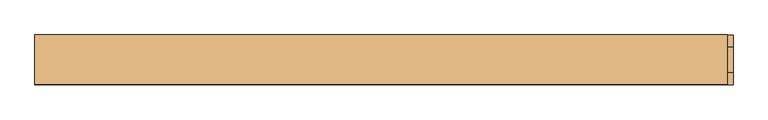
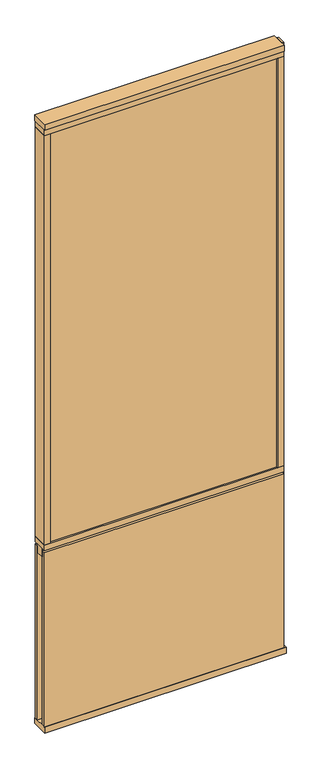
"""IFC4 building model written with IfcOpenShell, lengths in millimetres: door geometry, Mobiliário_Mobiliário de Escritório_Painel Misto Vidro Duplo com Persiana - AET e AEL (Complementar)_Marelli : AET - Temperado."""

from ifc_helpers import new_model, si_unit, frame, origin, origin_with_axes, place, context, project, spatial, polyline, outline, extrude, source, transform, mapped, element, save


def door_dd75b759(model_context):
    return source(origin(), model_context, "Body", "SweptSolid", [
        extrude(outline(polyline([(600.0, 42.5), (600.0, -42.5), (-600.0, -42.5), (-600.0, 42.5), (600.0, 42.5)])), origin_with_axes(), (0.0, 0.0, 1.0), 30.0),
        extrude(outline(polyline([(590.0, 39.5), (590.0, 21.5), (-600.0, 21.5), (-600.0, 39.5), (590.0, 39.5)])), frame((0.0, 0.0, 30.0), z_axis=(0.0, 0.0, 1.0), x_axis=(1.0, 0.0, 0.0)), (0.0, 0.0, 1.0), 916.5),
        extrude(outline(polyline([(590.0, 21.5), (590.0, -21.5), (-600.0, -21.5), (-600.0, 21.5), (590.0, 21.5)])), frame((0.0, 0.0, 913.5), z_axis=(0.0, 0.0, 1.0), x_axis=(1.0, 0.0, 0.0)), (0.0, 0.0, 1.0), 43.0),
        extrude(outline(polyline([(590.0, -39.5), (-600.0, -39.5), (-600.0, -21.5), (590.0, -21.5), (590.0, -39.5)])), frame((0.0, 0.0, 30.0), z_axis=(0.0, 0.0, 1.0), x_axis=(1.0, 0.0, 0.0)), (0.0, 0.0, 1.0), 916.5),
        extrude(outline(polyline([(590.0, 39.5), (590.0, -39.5), (-600.0, -39.5), (-600.0, 39.5), (590.0, 39.5)])), frame((0.0, 0.0, 956.5), z_axis=(0.0, 0.0, 1.0), x_axis=(1.0, 0.0, 0.0)), (0.0, 0.0, 1.0), 30.0),
        extrude(outline(polyline([(590.0, 42.5), (590.0, -42.5), (-600.0, -42.5), (-600.0, 42.5), (590.0, 42.5)])), frame((0.0, 0.0, 3170.0), z_axis=(0.0, 0.0, 1.0), x_axis=(1.0, 0.0, 0.0)), (0.0, 0.0, 1.0), 30.0),
        extrude(outline(polyline([(590.0, 39.5), (590.0, -39.5), (-600.0, -39.5), (-600.0, 39.5), (590.0, 39.5)])), frame((0.0, 0.0, 3140.0), z_axis=(0.0, 0.0, 1.0), x_axis=(1.0, 0.0, 0.0)), (0.0, 0.0, 1.0), 30.0),
        extrude(outline(polyline([(560.0, 13.6216022), (560.0, -11.3783978), (-570.0, -11.3783978), (-570.0, 13.6216022), (560.0, 13.6216022)])), frame((0.0, 0.0, 3107.0), z_axis=(0.0, 0.0, 1.0), x_axis=(1.0, 0.0, 0.0)), (0.0, 0.0, 1.0), 25.0),
        extrude(outline(polyline([(590.0, -21.5), (590.0, 21.5), (600.0, 21.5), (600.0, -21.5), (590.0, -21.5)])), frame((0.0, 0.0, 30.0), z_axis=(0.0, 0.0, 1.0), x_axis=(1.0, 0.0, 0.0)), (0.0, 0.0, 1.0), 3170.0),
        extrude(outline(polyline([(-570.0, 39.5), (-570.0, -39.5), (-600.0, -39.5), (-600.0, 39.5), (-570.0, 39.5)])), frame((0.0, 0.0, 986.5), z_axis=(0.0, 0.0, 1.0), x_axis=(1.0, 0.0, 0.0)), (0.0, 0.0, 1.0), 2153.5),
        extrude(outline(polyline([(560.0, 39.5), (590.0, 39.5), (590.0, -39.5), (560.0, -39.5), (560.0, 39.5)])), frame((0.0, 0.0, 986.5), z_axis=(0.0, 0.0, 1.0), x_axis=(1.0, 0.0, 0.0)), (0.0, 0.0, 1.0), 2153.5),
        extrude(outline(polyline([(560.0, 31.0), (560.0, 25.0), (-570.0, 25.0), (-570.0, 31.0), (560.0, 31.0)])), frame((0.0, 0.0, 986.5), z_axis=(0.0, 0.0, 1.0), x_axis=(1.0, 0.0, 0.0)), (0.0, 0.0, 1.0), 2153.5),
        extrude(outline(polyline([(560.0, -25.0), (560.0, -31.0), (-570.0, -31.0), (-570.0, -25.0), (560.0, -25.0)])), frame((0.0, 0.0, 986.5), z_axis=(0.0, 0.0, 1.0), x_axis=(1.0, 0.0, 0.0)), (0.0, 0.0, 1.0), 2153.5),
        extrude(outline(polyline([(560.0, 8.0), (560.0, -8.0), (-570.0, -8.0), (-570.0, 8.0), (560.0, 8.0)])), frame((0.0, 0.0, 3091.2), z_axis=(0.0, 0.0, 1.0), x_axis=(1.0, 0.0, 0.0)), (0.0, 0.0, 1.0), 0.8),
        extrude(outline(polyline([(560.0, 8.0), (560.0, -8.0), (-570.0, -8.0), (-570.0, 8.0), (560.0, 8.0)])), frame((0.0, 0.0, 3061.2), z_axis=(0.0, 0.0, 1.0), x_axis=(1.0, 0.0, 0.0)), (0.0, 0.0, 1.0), 0.8),
        extrude(outline(polyline([(560.0, 8.0), (560.0, -8.0), (-570.0, -8.0), (-570.0, 8.0), (560.0, 8.0)])), frame((0.0, 0.0, 3031.2), z_axis=(0.0, 0.0, 1.0), x_axis=(1.0, 0.0, 0.0)), (0.0, 0.0, 1.0), 0.8),
        extrude(outline(polyline([(560.0, 8.0), (560.0, -8.0), (-570.0, -8.0), (-570.0, 8.0), (560.0, 8.0)])), frame((0.0, 0.0, 3001.2), z_axis=(0.0, 0.0, 1.0), x_axis=(1.0, 0.0, 0.0)), (0.0, 0.0, 1.0), 0.8),
        extrude(outline(polyline([(560.0, 8.0), (560.0, -8.0), (-570.0, -8.0), (-570.0, 8.0), (560.0, 8.0)])), frame((0.0, 0.0, 2971.2), z_axis=(0.0, 0.0, 1.0), x_axis=(1.0, 0.0, 0.0)), (0.0, 0.0, 1.0), 0.8),
        extrude(outline(polyline([(560.0, 8.0), (560.0, -8.0), (-570.0, -8.0), (-570.0, 8.0), (560.0, 8.0)])), frame((0.0, 0.0, 2941.2), z_axis=(0.0, 0.0, 1.0), x_axis=(1.0, 0.0, 0.0)), (0.0, 0.0, 1.0), 0.8),
        extrude(outline(polyline([(560.0, 8.0), (560.0, -8.0), (-570.0, -8.0), (-570.0, 8.0), (560.0, 8.0)])), frame((0.0, 0.0, 2911.2), z_axis=(0.0, 0.0, 1.0), x_axis=(1.0, 0.0, 0.0)), (0.0, 0.0, 1.0), 0.8),
        extrude(outline(polyline([(560.0, 8.0), (560.0, -8.0), (-570.0, -8.0), (-570.0, 8.0), (560.0, 8.0)])), frame((0.0, 0.0, 2881.2), z_axis=(0.0, 0.0, 1.0), x_axis=(1.0, 0.0, 0.0)), (0.0, 0.0, 1.0), 0.8),
        extrude(outline(polyline([(560.0, 8.0), (560.0, -8.0), (-570.0, -8.0), (-570.0, 8.0), (560.0, 8.0)])), frame((0.0, 0.0, 2851.2), z_axis=(0.0, 0.0, 1.0), x_axis=(1.0, 0.0, 0.0)), (0.0, 0.0, 1.0), 0.8),
        extrude(outline(polyline([(560.0, 8.0), (560.0, -8.0), (-570.0, -8.0), (-570.0, 8.0), (560.0, 8.0)])), frame((0.0, 0.0, 2821.2), z_axis=(0.0, 0.0, 1.0), x_axis=(1.0, 0.0, 0.0)), (0.0, 0.0, 1.0), 0.8),
        extrude(outline(polyline([(560.0, 8.0), (560.0, -8.0), (-570.0, -8.0), (-570.0, 8.0), (560.0, 8.0)])), frame((0.0, 0.0, 2791.2), z_axis=(0.0, 0.0, 1.0), x_axis=(1.0, 0.0, 0.0)), (0.0, 0.0, 1.0), 0.8),
        extrude(outline(polyline([(560.0, 8.0), (560.0, -8.0), (-570.0, -8.0), (-570.0, 8.0), (560.0, 8.0)])), frame((0.0, 0.0, 2761.2), z_axis=(0.0, 0.0, 1.0), x_axis=(1.0, 0.0, 0.0)), (0.0, 0.0, 1.0), 0.8),
        extrude(outline(polyline([(560.0, 8.0), (560.0, -8.0), (-570.0, -8.0), (-570.0, 8.0), (560.0, 8.0)])), frame((0.0, 0.0, 2731.2), z_axis=(0.0, 0.0, 1.0), x_axis=(1.0, 0.0, 0.0)), (0.0, 0.0, 1.0), 0.8),
        extrude(outline(polyline([(560.0, 8.0), (560.0, -8.0), (-570.0, -8.0), (-570.0, 8.0), (560.0, 8.0)])), frame((0.0, 0.0, 2701.2), z_axis=(0.0, 0.0, 1.0), x_axis=(1.0, 0.0, 0.0)), (0.0, 0.0, 1.0), 0.8),
        extrude(outline(polyline([(560.0, 8.0), (560.0, -8.0), (-570.0, -8.0), (-570.0, 8.0), (560.0, 8.0)])), frame((0.0, 0.0, 2671.2), z_axis=(0.0, 0.0, 1.0), x_axis=(1.0, 0.0, 0.0)), (0.0, 0.0, 1.0), 0.8),
        extrude(outline(polyline([(560.0, 8.0), (560.0, -8.0), (-570.0, -8.0), (-570.0, 8.0), (560.0, 8.0)])), frame((0.0, 0.0, 2641.2), z_axis=(0.0, 0.0, 1.0), x_axis=(1.0, 0.0, 0.0)), (0.0, 0.0, 1.0), 0.8),
        extrude(outline(polyline([(560.0, 8.0), (560.0, -8.0), (-570.0, -8.0), (-570.0, 8.0), (560.0, 8.0)])), frame((0.0, 0.0, 2611.2), z_axis=(0.0, 0.0, 1.0), x_axis=(1.0, 0.0, 0.0)), (0.0, 0.0, 1.0), 0.8),
        extrude(outline(polyline([(560.0, 8.0), (560.0, -8.0), (-570.0, -8.0), (-570.0, 8.0), (560.0, 8.0)])), frame((0.0, 0.0, 2581.2), z_axis=(0.0, 0.0, 1.0), x_axis=(1.0, 0.0, 0.0)), (0.0, 0.0, 1.0), 0.8),
        extrude(outline(polyline([(560.0, 8.0), (560.0, -8.0), (-570.0, -8.0), (-570.0, 8.0), (560.0, 8.0)])), frame((0.0, 0.0, 2551.2), z_axis=(0.0, 0.0, 1.0), x_axis=(1.0, 0.0, 0.0)), (0.0, 0.0, 1.0), 0.8),
        extrude(outline(polyline([(560.0, 8.0), (560.0, -8.0), (-570.0, -8.0), (-570.0, 8.0), (560.0, 8.0)])), frame((0.0, 0.0, 2521.2), z_axis=(0.0, 0.0, 1.0), x_axis=(1.0, 0.0, 0.0)), (0.0, 0.0, 1.0), 0.8),
        extrude(outline(polyline([(560.0, 8.0), (560.0, -8.0), (-570.0, -8.0), (-570.0, 8.0), (560.0, 8.0)])), frame((0.0, 0.0, 2491.2), z_axis=(0.0, 0.0, 1.0), x_axis=(1.0, 0.0, 0.0)), (0.0, 0.0, 1.0), 0.8),
        extrude(outline(polyline([(560.0, 8.0), (560.0, -8.0), (-570.0, -8.0), (-570.0, 8.0), (560.0, 8.0)])), frame((0.0, 0.0, 2461.2), z_axis=(0.0, 0.0, 1.0), x_axis=(1.0, 0.0, 0.0)), (0.0, 0.0, 1.0), 0.8),
        extrude(outline(polyline([(560.0, 8.0), (560.0, -8.0), (-570.0, -8.0), (-570.0, 8.0), (560.0, 8.0)])), frame((0.0, 0.0, 2431.2), z_axis=(0.0, 0.0, 1.0), x_axis=(1.0, 0.0, 0.0)), (0.0, 0.0, 1.0), 0.8),
        extrude(outline(polyline([(560.0, 8.0), (560.0, -8.0), (-570.0, -8.0), (-570.0, 8.0), (560.0, 8.0)])), frame((0.0, 0.0, 2401.2), z_axis=(0.0, 0.0, 1.0), x_axis=(1.0, 0.0, 0.0)), (0.0, 0.0, 1.0), 0.8),
        extrude(outline(polyline([(560.0, 8.0), (560.0, -8.0), (-570.0, -8.0), (-570.0, 8.0), (560.0, 8.0)])), frame((0.0, 0.0, 2371.2), z_axis=(0.0, 0.0, 1.0), x_axis=(1.0, 0.0, 0.0)), (0.0, 0.0, 1.0), 0.8),
        extrude(outline(polyline([(560.0, 8.0), (560.0, -8.0), (-570.0, -8.0), (-570.0, 8.0), (560.0, 8.0)])), frame((0.0, 0.0, 2341.2), z_axis=(0.0, 0.0, 1.0), x_axis=(1.0, 0.0, 0.0)), (0.0, 0.0, 1.0), 0.8),
        extrude(outline(polyline([(560.0, 8.0), (560.0, -8.0), (-570.0, -8.0), (-570.0, 8.0), (560.0, 8.0)])), frame((0.0, 0.0, 2311.2), z_axis=(0.0, 0.0, 1.0), x_axis=(1.0, 0.0, 0.0)), (0.0, 0.0, 1.0), 0.8),
        extrude(outline(polyline([(560.0, 8.0), (560.0, -8.0), (-570.0, -8.0), (-570.0, 8.0), (560.0, 8.0)])), frame((0.0, 0.0, 2281.2), z_axis=(0.0, 0.0, 1.0), x_axis=(1.0, 0.0, 0.0)), (0.0, 0.0, 1.0), 0.8),
        extrude(outline(polyline([(560.0, 8.0), (560.0, -8.0), (-570.0, -8.0), (-570.0, 8.0), (560.0, 8.0)])), frame((0.0, 0.0, 2251.2), z_axis=(0.0, 0.0, 1.0), x_axis=(1.0, 0.0, 0.0)), (0.0, 0.0, 1.0), 0.8),
        extrude(outline(polyline([(560.0, 8.0), (560.0, -8.0), (-570.0, -8.0), (-570.0, 8.0), (560.0, 8.0)])), frame((0.0, 0.0, 2221.2), z_axis=(0.0, 0.0, 1.0), x_axis=(1.0, 0.0, 0.0)), (0.0, 0.0, 1.0), 0.8),
        extrude(outline(polyline([(560.0, 8.0), (560.0, -8.0), (-570.0, -8.0), (-570.0, 8.0), (560.0, 8.0)])), frame((0.0, 0.0, 2191.2), z_axis=(0.0, 0.0, 1.0), x_axis=(1.0, 0.0, 0.0)), (0.0, 0.0, 1.0), 0.8),
        extrude(outline(polyline([(560.0, 8.0), (560.0, -8.0), (-570.0, -8.0), (-570.0, 8.0), (560.0, 8.0)])), frame((0.0, 0.0, 2161.2), z_axis=(0.0, 0.0, 1.0), x_axis=(1.0, 0.0, 0.0)), (0.0, 0.0, 1.0), 0.8),
        extrude(outline(polyline([(560.0, 8.0), (560.0, -8.0), (-570.0, -8.0), (-570.0, 8.0), (560.0, 8.0)])), frame((0.0, 0.0, 2131.2), z_axis=(0.0, 0.0, 1.0), x_axis=(1.0, 0.0, 0.0)), (0.0, 0.0, 1.0), 0.8),
        extrude(outline(polyline([(560.0, 8.0), (560.0, -8.0), (-570.0, -8.0), (-570.0, 8.0), (560.0, 8.0)])), frame((0.0, 0.0, 2101.2), z_axis=(0.0, 0.0, 1.0), x_axis=(1.0, 0.0, 0.0)), (0.0, 0.0, 1.0), 0.8),
        extrude(outline(polyline([(560.0, 8.0), (560.0, -8.0), (-570.0, -8.0), (-570.0, 8.0), (560.0, 8.0)])), frame((0.0, 0.0, 2071.2), z_axis=(0.0, 0.0, 1.0), x_axis=(1.0, 0.0, 0.0)), (0.0, 0.0, 1.0), 0.8),
        extrude(outline(polyline([(560.0, 8.0), (560.0, -8.0), (-570.0, -8.0), (-570.0, 8.0), (560.0, 8.0)])), frame((0.0, 0.0, 2041.2), z_axis=(0.0, 0.0, 1.0), x_axis=(1.0, 0.0, 0.0)), (0.0, 0.0, 1.0), 0.8),
        extrude(outline(polyline([(560.0, 8.0), (560.0, -8.0), (-570.0, -8.0), (-570.0, 8.0), (560.0, 8.0)])), frame((0.0, 0.0, 2011.2), z_axis=(0.0, 0.0, 1.0), x_axis=(1.0, 0.0, 0.0)), (0.0, 0.0, 1.0), 0.8),
        extrude(outline(polyline([(560.0, 8.0), (560.0, -8.0), (-570.0, -8.0), (-570.0, 8.0), (560.0, 8.0)])), frame((0.0, 0.0, 1981.2), z_axis=(0.0, 0.0, 1.0), x_axis=(1.0, 0.0, 0.0)), (0.0, 0.0, 1.0), 0.8),
        extrude(outline(polyline([(560.0, 8.0), (560.0, -8.0), (-570.0, -8.0), (-570.0, 8.0), (560.0, 8.0)])), frame((0.0, 0.0, 1951.2), z_axis=(0.0, 0.0, 1.0), x_axis=(1.0, 0.0, 0.0)), (0.0, 0.0, 1.0), 0.8),
        extrude(outline(polyline([(560.0, 8.0), (560.0, -8.0), (-570.0, -8.0), (-570.0, 8.0), (560.0, 8.0)])), frame((0.0, 0.0, 1921.2), z_axis=(0.0, 0.0, 1.0), x_axis=(1.0, 0.0, 0.0)), (0.0, 0.0, 1.0), 0.8),
        extrude(outline(polyline([(560.0, 8.0), (560.0, -8.0), (-570.0, -8.0), (-570.0, 8.0), (560.0, 8.0)])), frame((0.0, 0.0, 1891.2), z_axis=(0.0, 0.0, 1.0), x_axis=(1.0, 0.0, 0.0)), (0.0, 0.0, 1.0), 0.8),
        extrude(outline(polyline([(560.0, 8.0), (560.0, -8.0), (-570.0, -8.0), (-570.0, 8.0), (560.0, 8.0)])), frame((0.0, 0.0, 1861.2), z_axis=(0.0, 0.0, 1.0), x_axis=(1.0, 0.0, 0.0)), (0.0, 0.0, 1.0), 0.8),
        extrude(outline(polyline([(560.0, 8.0), (560.0, -8.0), (-570.0, -8.0), (-570.0, 8.0), (560.0, 8.0)])), frame((0.0, 0.0, 1831.2), z_axis=(0.0, 0.0, 1.0), x_axis=(1.0, 0.0, 0.0)), (0.0, 0.0, 1.0), 0.8),
        extrude(outline(polyline([(560.0, 8.0), (560.0, -8.0), (-570.0, -8.0), (-570.0, 8.0), (560.0, 8.0)])), frame((0.0, 0.0, 1801.2), z_axis=(0.0, 0.0, 1.0), x_axis=(1.0, 0.0, 0.0)), (0.0, 0.0, 1.0), 0.8),
        extrude(outline(polyline([(560.0, 8.0), (560.0, -8.0), (-570.0, -8.0), (-570.0, 8.0), (560.0, 8.0)])), frame((0.0, 0.0, 1501.2), z_axis=(0.0, 0.0, 1.0), x_axis=(1.0, 0.0, 0.0)), (0.0, 0.0, 1.0), 0.8),
        extrude(outline(polyline([(560.0, 8.0), (560.0, -8.0), (-570.0, -8.0), (-570.0, 8.0), (560.0, 8.0)])), frame((0.0, 0.0, 1531.2), z_axis=(0.0, 0.0, 1.0), x_axis=(1.0, 0.0, 0.0)), (0.0, 0.0, 1.0), 0.8),
        extrude(outline(polyline([(560.0, 8.0), (560.0, -8.0), (-570.0, -8.0), (-570.0, 8.0), (560.0, 8.0)])), frame((0.0, 0.0, 1561.2), z_axis=(0.0, 0.0, 1.0), x_axis=(1.0, 0.0, 0.0)), (0.0, 0.0, 1.0), 0.8),
        extrude(outline(polyline([(560.0, 8.0), (560.0, -8.0), (-570.0, -8.0), (-570.0, 8.0), (560.0, 8.0)])), frame((0.0, 0.0, 1591.2), z_axis=(0.0, 0.0, 1.0), x_axis=(1.0, 0.0, 0.0)), (0.0, 0.0, 1.0), 0.8),
        extrude(outline(polyline([(560.0, 8.0), (560.0, -8.0), (-570.0, -8.0), (-570.0, 8.0), (560.0, 8.0)])), frame((0.0, 0.0, 1621.2), z_axis=(0.0, 0.0, 1.0), x_axis=(1.0, 0.0, 0.0)), (0.0, 0.0, 1.0), 0.8),
        extrude(outline(polyline([(560.0, 8.0), (560.0, -8.0), (-570.0, -8.0), (-570.0, 8.0), (560.0, 8.0)])), frame((0.0, 0.0, 1651.2), z_axis=(0.0, 0.0, 1.0), x_axis=(1.0, 0.0, 0.0)), (0.0, 0.0, 1.0), 0.8),
        extrude(outline(polyline([(560.0, 8.0), (560.0, -8.0), (-570.0, -8.0), (-570.0, 8.0), (560.0, 8.0)])), frame((0.0, 0.0, 1681.2), z_axis=(0.0, 0.0, 1.0), x_axis=(1.0, 0.0, 0.0)), (0.0, 0.0, 1.0), 0.8),
        extrude(outline(polyline([(560.0, 8.0), (560.0, -8.0), (-570.0, -8.0), (-570.0, 8.0), (560.0, 8.0)])), frame((0.0, 0.0, 1711.2), z_axis=(0.0, 0.0, 1.0), x_axis=(1.0, 0.0, 0.0)), (0.0, 0.0, 1.0), 0.8),
        extrude(outline(polyline([(560.0, 8.0), (560.0, -8.0), (-570.0, -8.0), (-570.0, 8.0), (560.0, 8.0)])), frame((0.0, 0.0, 1741.2), z_axis=(0.0, 0.0, 1.0), x_axis=(1.0, 0.0, 0.0)), (0.0, 0.0, 1.0), 0.8),
        extrude(outline(polyline([(560.0, 8.0), (560.0, -8.0), (-570.0, -8.0), (-570.0, 8.0), (560.0, 8.0)])), frame((0.0, 0.0, 1771.2), z_axis=(0.0, 0.0, 1.0), x_axis=(1.0, 0.0, 0.0)), (0.0, 0.0, 1.0), 0.8),
        extrude(outline(polyline([(560.0, 8.0), (560.0, -8.0), (-570.0, -8.0), (-570.0, 8.0), (560.0, 8.0)])), frame((0.0, 0.0, 1471.2), z_axis=(0.0, 0.0, 1.0), x_axis=(1.0, 0.0, 0.0)), (0.0, 0.0, 1.0), 0.8),
        extrude(outline(polyline([(560.0, 8.0), (560.0, -8.0), (-570.0, -8.0), (-570.0, 8.0), (560.0, 8.0)])), frame((0.0, 0.0, 1441.2), z_axis=(0.0, 0.0, 1.0), x_axis=(1.0, 0.0, 0.0)), (0.0, 0.0, 1.0), 0.8),
        extrude(outline(polyline([(560.0, 8.0), (560.0, -8.0), (-570.0, -8.0), (-570.0, 8.0), (560.0, 8.0)])), frame((0.0, 0.0, 1411.2), z_axis=(0.0, 0.0, 1.0), x_axis=(1.0, 0.0, 0.0)), (0.0, 0.0, 1.0), 0.8),
        extrude(outline(polyline([(560.0, 8.0), (560.0, -8.0), (-570.0, -8.0), (-570.0, 8.0), (560.0, 8.0)])), frame((0.0, 0.0, 1381.2), z_axis=(0.0, 0.0, 1.0), x_axis=(1.0, 0.0, 0.0)), (0.0, 0.0, 1.0), 0.8),
        extrude(outline(polyline([(560.0, 8.0), (560.0, -8.0), (-570.0, -8.0), (-570.0, 8.0), (560.0, 8.0)])), frame((0.0, 0.0, 1351.2), z_axis=(0.0, 0.0, 1.0), x_axis=(1.0, 0.0, 0.0)), (0.0, 0.0, 1.0), 0.8),
    ])


if __name__ == "__main__":
    model = new_model("IFC4")
    model_context = context("Model", 3, world=origin())
    ifc_project = project(units=[si_unit("LENGTHUNIT", "METRE", prefix="MILLI")], contexts=[model_context])
    site = spatial("IfcSite", under=ifc_project)
    building = spatial("IfcBuilding", under=site)
    placement = place(None, origin())
    door_shape = door_dd75b759(model_context)
    element("IfcDoor", 1, ObjectType="Mobiliário_Mobiliário de Escritório_Painel Misto Vidro Duplo com Persiana - AET e AEL (Complementar)_Marelli : AET - Temperado", at=placement, inside=building, context=model_context, shape_type="MappedRepresentation", body=[
        mapped(door_shape, transform((0.0, 0.0, 0.0), x_axis=(1.0, 0.0, 0.0), y_axis=(0.0, 1.0, 0.0), z_axis=(0.0, 0.0, 1.0))),
    ])
    save(model, "model.ifc")
